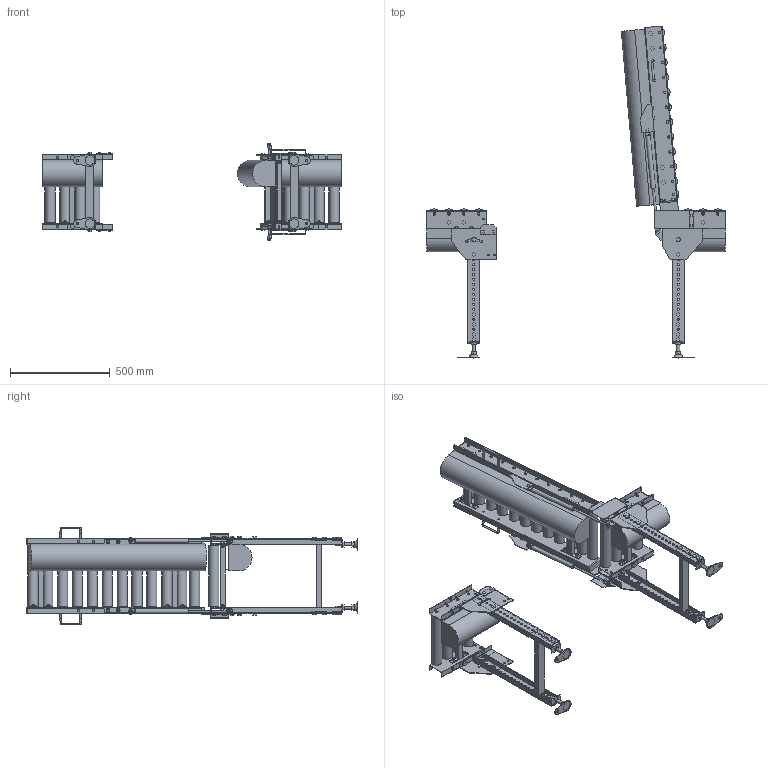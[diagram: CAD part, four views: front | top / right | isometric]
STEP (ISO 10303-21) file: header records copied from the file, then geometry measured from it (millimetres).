
FILE_DESCRIPTION (( 'STEP AP214' ), '1' );
FILE_NAME ('MCD50HU-L-315-75-900.STEP', '2022-11-17T06:13:17', ( '' ), ( '' ), 'SwSTEP 2.0', 'SolidWorks 2017', '' );
FILE_SCHEMA (( 'AUTOMOTIVE_DESIGN' ));
Length unit declared in the file: millimetre
Products named in the file (1): MCD50HU-L-315-75-900
Bounding box: 1500 x 1665.85 x 491.39 mm (x, y, z)
Volume: 38120967.2 mm3; surface area: 4044334.3 mm2
Topology: 5 solids, 31 shells, 2623 faces, 6556 edges, 4171 vertices
Faces by surface type: plane 2144, cylinder 461, cone 10, torus 8
Full cylindrical faces by diameter (mm): 8 x8, 8.5 x8, 9 x20, 10 x58, 10.5 x96, 11 x8, 12 x42, 13 x12, 14 x4, 15 x6, 15.4 x2, 15.7 x2, 16 x10, 17 x4, 18 x6, 18.4 x28, 18.5 x8, 21 x12, 22 x2, 50.8 x20
Entity records: 75972 total; most frequent: CARTESIAN_POINT 12985, DIRECTION 12712, ORIENTED_EDGE 11988, EDGE_CURVE 5994, LINE 4516, VECTOR 4516, AXIS2_PLACEMENT_3D 4098, VERTEX_POINT 3983
